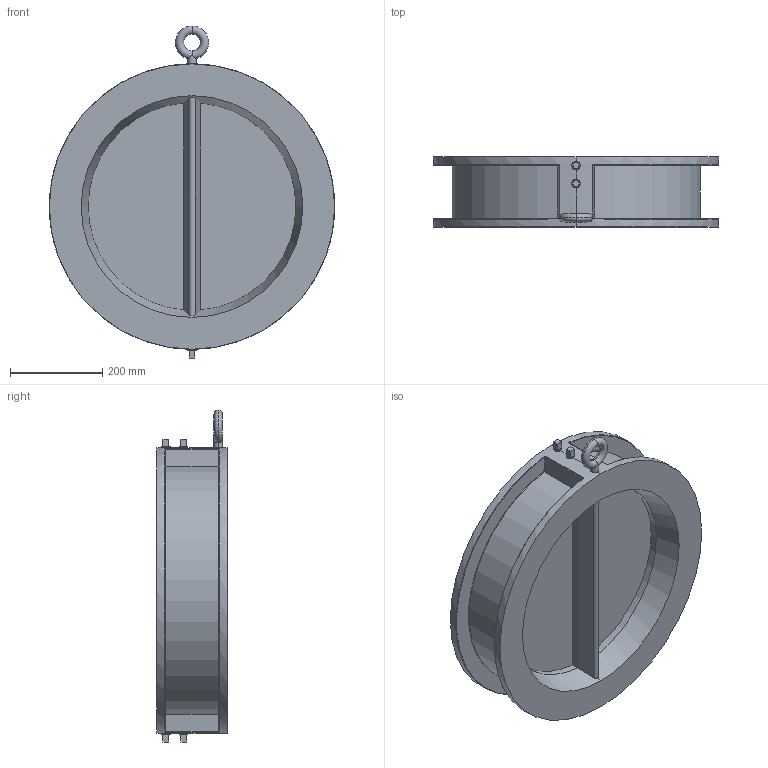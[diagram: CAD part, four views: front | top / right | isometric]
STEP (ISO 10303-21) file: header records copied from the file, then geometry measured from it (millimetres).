
FILE_DESCRIPTION (( 'STEP AP203' ), '1' );
FILE_NAME ('D6_DN500.STEP', '2012-09-21T13:09:18', ( 'luca.saino' ), ( 'Hewlett-Packard Company' ), 'SwSTEP 2.0', 'SolidWorks 2012', '' );
FILE_SCHEMA (( 'CONFIG_CONTROL_DESIGN' ));
Length unit declared in the file: millimetre
Products named in the file (1): D6_DN500
Bounding box: 618 x 152 x 719 mm (x, y, z)
Volume: 13417344.7 mm3; surface area: 1374109.6 mm2
Topology: 1 solids, 1 shells, 168 faces, 417 edges, 243 vertices
Faces by surface type: plane 83, cylinder 55, torus 12, sphere 8, bspline 8, cone 2
Entity records: 6296 total; most frequent: CARTESIAN_POINT 2349, ORIENTED_EDGE 818, DIRECTION 797, EDGE_CURVE 409, AXIS2_PLACEMENT_3D 295, VERTEX_POINT 243, VECTOR 207, LINE 207
